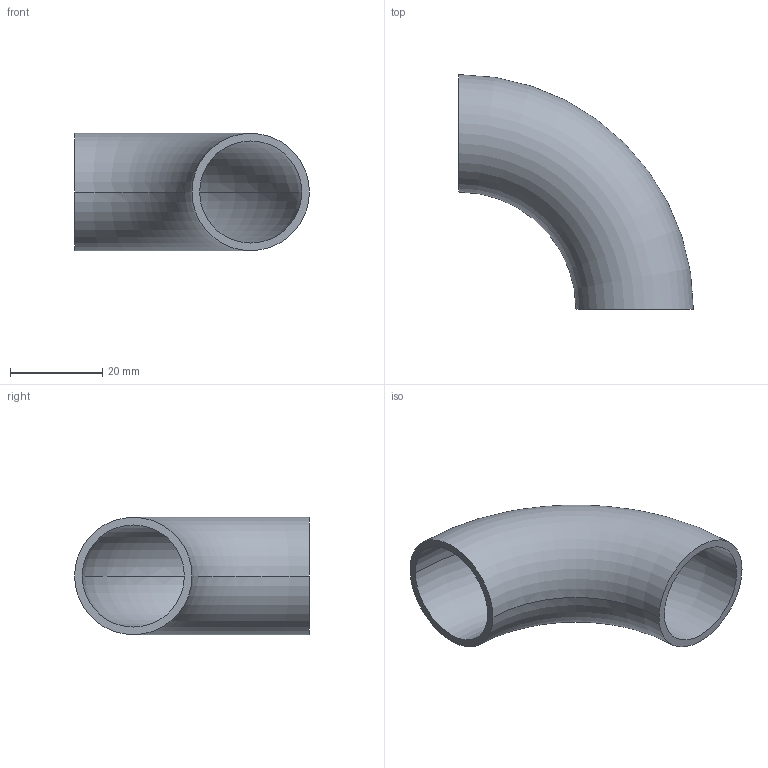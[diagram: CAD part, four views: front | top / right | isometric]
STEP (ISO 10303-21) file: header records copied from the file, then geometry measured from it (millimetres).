
FILE_DESCRIPTION (( 'STEP AP203' ), '1' );
FILE_NAME ('2WCL1.0.STEP', '2018-04-30T15:26:20', ( 'vneprd' ), ( 'Microsoft' ), 'SwSTEP 2.0', 'SolidWorks 2014', '' );
FILE_SCHEMA (( 'CONFIG_CONTROL_DESIGN' ));
Length unit declared in the file: inch
Products named in the file (1): 2WCL1.0
Bounding box: 50.8 x 50.8 x 25.4 mm (x, y, z)
Volume: 7372 mm3; surface area: 9176.7 mm2
Topology: 1 solids, 1 shells, 6 faces, 12 edges, 8 vertices
Faces by surface type: torus 4, plane 2
Entity records: 251 total; most frequent: DIRECTION 38, CARTESIAN_POINT 27, ORIENTED_EDGE 24, AXIS2_PLACEMENT_3D 19, CIRCLE 12, EDGE_CURVE 12, VERTEX_POINT 8, PERSON_AND_ORGANIZATION 8
